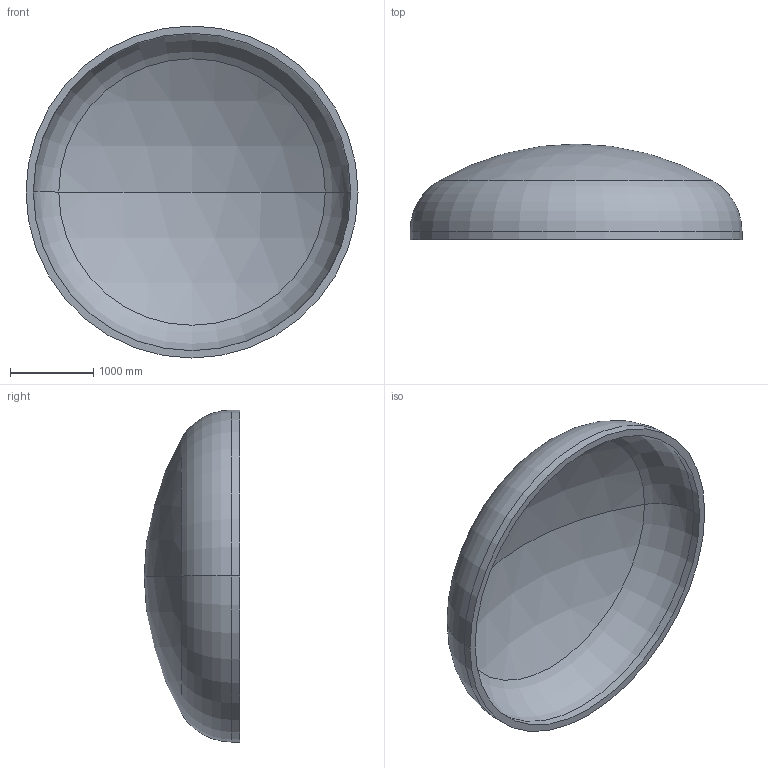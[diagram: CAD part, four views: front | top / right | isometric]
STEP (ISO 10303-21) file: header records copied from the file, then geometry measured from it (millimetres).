
FILE_DESCRIPTION (( 'STEP AP203' ), '1' );
FILE_NAME ('DIN 28013 Korbbogenform_-_Boden DIN 28013 - 4000 x 100 - I - s=88.step', '2016-07-01T22:44:04', ( '' ), ( '' ), 'SwSTEP 2.0', 'SolidWorks 2013', '' );
FILE_SCHEMA (( 'CONFIG_CONTROL_DESIGN' ));
Length unit declared in the file: millimetre
Products named in the file (1): DIN 28013 Korbbogenform_-_Boden DIN 28013 - 4000 x 100 - I - s=88
Bounding box: 4000 x 1151.93 x 4000 mm (x, y, z)
Volume: 1595582875.4 mm3; surface area: 37360965.5 mm2
Topology: 1 solids, 1 shells, 13 faces, 24 edges, 14 vertices
Faces by surface type: torus 4, cylinder 4, sphere 4, plane 1
Entity records: 407 total; most frequent: DIRECTION 72, CARTESIAN_POINT 52, ORIENTED_EDGE 48, AXIS2_PLACEMENT_3D 34, EDGE_CURVE 24, CIRCLE 20, VERTEX_POINT 14, EDGE_LOOP 14
